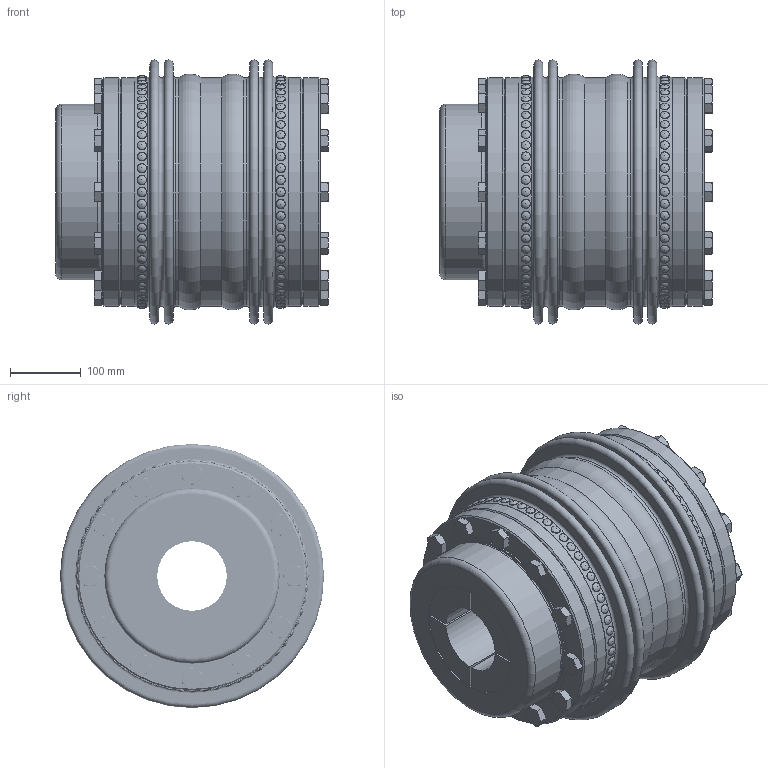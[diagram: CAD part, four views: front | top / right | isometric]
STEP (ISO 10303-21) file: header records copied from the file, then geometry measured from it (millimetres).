
FILE_DESCRIPTION(/* description */ ('Unknown'),/* implementation_level */ '2;1');
FILE_NAME(/* name */ 'KXL 18 A-B',/* time_stamp */ '2020-07-06T08:16:32+02:00',/* author */ ('Unknown'),/* organization */ ('Unknown'),/* preprocessor_version */ 'ST-DEVELOPER v16.7',/* originating_system */ 'DEX',/* authorisation */ $);
FILE_SCHEMA (('AP203_CONFIGURATION_CONTROLLED_3D_DESIGN_OF_MECHANICAL_PARTS_AND_ASSEMBLIES_MIM_LF { 1 0 10303 203 3 1 4 }','AUTOMOTIVE_DESIGN {1 0 10303 214 3 1 1}'));
Length unit declared in the file: millimetre
Products named in the file (1): KXL 18 A-B
Bounding box: 383.79 x 372 x 372 mm (x, y, z)
Volume: 10805390.7 mm3; surface area: 1739910.4 mm2
Topology: 1 solids, 42 shells, 1806 faces, 3993 edges, 2588 vertices
Faces by surface type: plane 829, torus 538, cylinder 307, cone 132
Full cylindrical faces by diameter (mm): 6.4 x120, 13.835 x16, 14 x16, 16 x16, 17 x16, 18 x24, 19 x24, 22.5 x16, 27 x24, 98 x2, 245 x2, 247 x2, 250 x2, 258 x5, 306.5 x2, 317.7 x3, 322 x4, 322.5 x3, 322.8 x2
Entity records: 45020 total; most frequent: CARTESIAN_POINT 11087, DIRECTION 6934, ORIENTED_EDGE 5496, FACE_BOUND 3124, AXIS2_PLACEMENT_3D 3115, EDGE_LOOP 2988, EDGE_CURVE 2748, VERTEX_POINT 2212
